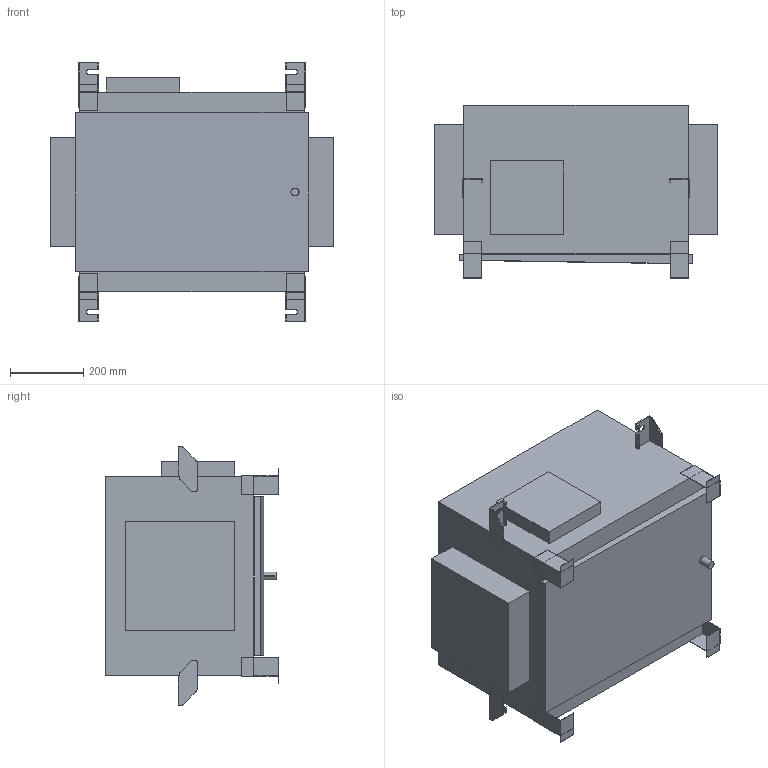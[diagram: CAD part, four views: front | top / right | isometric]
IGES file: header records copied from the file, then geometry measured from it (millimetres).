
Start section: SolidWorks IGES file using analytic representation for surfaces
Bounding box: 772 x 473.8 x 705.6 mm (x, y, z)
Surface area: 2575202.6 mm2 (no closed solid volume)
Topology: 0 solids, 0 shells, 194 faces, 1424 edges, 1424 vertices
Faces by surface type: bspline 168, revolution 26
